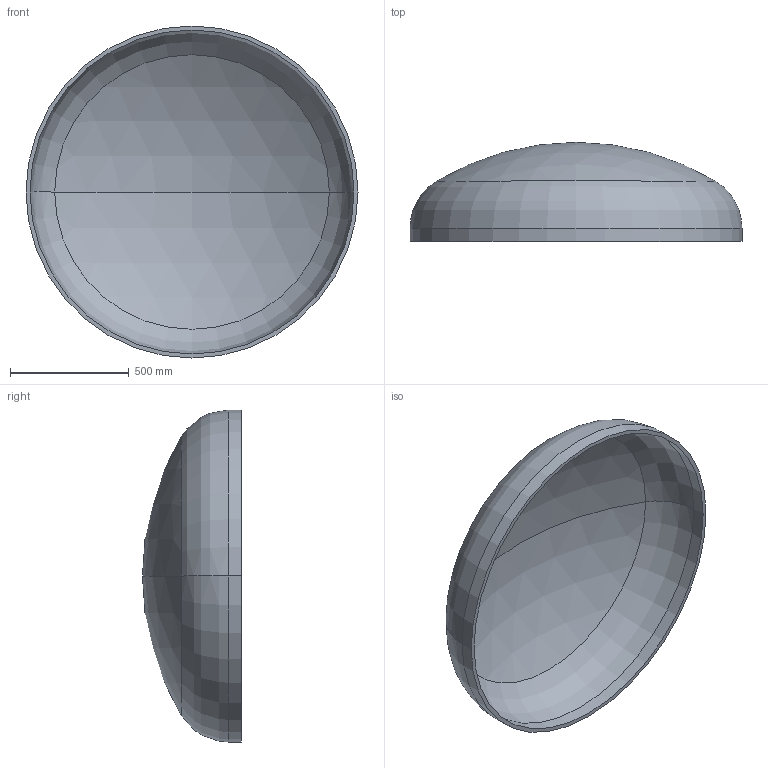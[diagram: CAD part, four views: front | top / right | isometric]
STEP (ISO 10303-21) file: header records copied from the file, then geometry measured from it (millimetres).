
FILE_DESCRIPTION (( 'STEP AP203' ), '1' );
FILE_NAME ('DIN 28013 Korbbogenform_-_Boden DIN 28013 - 1400 x 55 - I - s=17.step', '2016-07-01T10:09:39', ( '' ), ( '' ), 'SwSTEP 2.0', 'SolidWorks 2013', '' );
FILE_SCHEMA (( 'CONFIG_CONTROL_DESIGN' ));
Length unit declared in the file: millimetre
Products named in the file (1): DIN 28013 Korbbogenform_-_Boden DIN 28013 - 1400 x 55 - I - s=17
Bounding box: 1400 x 417.4 x 1400 mm (x, y, z)
Volume: 39709995.2 mm3; surface area: 4746229.7 mm2
Topology: 1 solids, 1 shells, 13 faces, 24 edges, 14 vertices
Faces by surface type: torus 4, cylinder 4, sphere 4, plane 1
Entity records: 407 total; most frequent: DIRECTION 72, CARTESIAN_POINT 52, ORIENTED_EDGE 48, AXIS2_PLACEMENT_3D 34, EDGE_CURVE 24, CIRCLE 20, EDGE_LOOP 14, VERTEX_POINT 14
